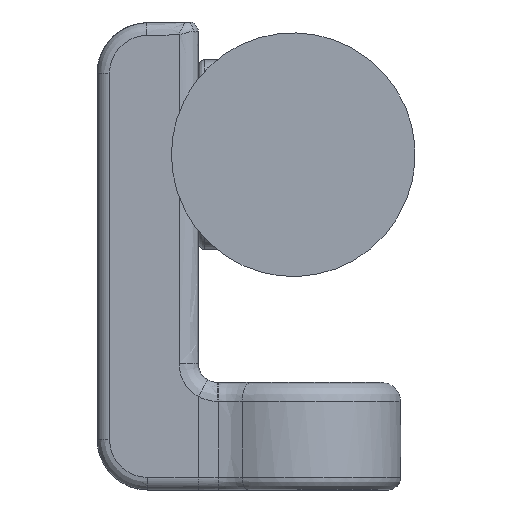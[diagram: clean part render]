
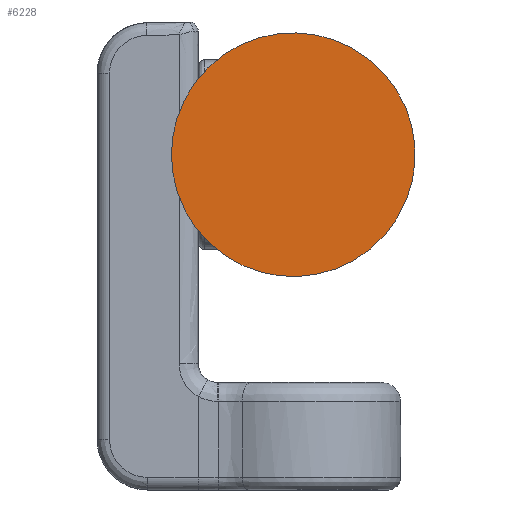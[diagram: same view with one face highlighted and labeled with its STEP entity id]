
A CAD part, left-side view. The second image highlights one B-rep face of the part: STEP entity #6228.
In plain terms, the highlighted free-form (B-spline) face has degree [1, 1] with [2, 2] control points.
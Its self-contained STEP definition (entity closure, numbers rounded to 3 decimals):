
#6196=CARTESIAN_POINT('',(-134.229,19.256,36.));
#6197=VERTEX_POINT('',#6196);
#6203=CARTESIAN_POINT('',(-134.229,19.256,36.));
#6204=CARTESIAN_POINT('',(-134.229,19.256,16.744));
#6205=CARTESIAN_POINT('',(-134.229,0.,16.744));
#6206=CARTESIAN_POINT('',(-134.229,-19.256,16.744));
#6207=CARTESIAN_POINT('',(-134.229,-19.256,36.));
#6208=CARTESIAN_POINT('',(-134.229,-19.256,55.256));
#6209=CARTESIAN_POINT('',(-134.229,0.,55.256));
#6210=CARTESIAN_POINT('',(-134.229,19.256,55.256));
#6211=CARTESIAN_POINT('',(-134.229,19.256,36.));
#6212=(BOUNDED_CURVE()B_SPLINE_CURVE(2,(#6203,#6204,#6205,#6206,#6207,#6208,#6209,#6210,#6211),.CIRCULAR_ARC.,.T.,.U.)B_SPLINE_CURVE_WITH_KNOTS((3,2,2,2,3),(0.,0.25,0.5,0.75,1.),.UNSPECIFIED.)CURVE()GEOMETRIC_REPRESENTATION_ITEM()RATIONAL_B_SPLINE_CURVE((1.,0.707,1.,0.707,1.,0.707,1.,0.707,1.))REPRESENTATION_ITEM(''));
#6213=EDGE_CURVE('',#6197,#6197,#6212,.T.);
#6220=CARTESIAN_POINT('',(-134.229,-57.767,-21.767));
#6221=CARTESIAN_POINT('',(-134.229,-57.767,93.767));
#6222=CARTESIAN_POINT('',(-134.229,57.767,-21.767));
#6223=CARTESIAN_POINT('',(-134.229,57.767,93.767));
#6224=B_SPLINE_SURFACE_WITH_KNOTS('',1,1,((#6220,#6221),(#6222,#6223)),.PLANE_SURF.,.F.,.F.,.U.,(2,2),(2,2),(-1.,2.),(-1.,2.),.UNSPECIFIED.);
#6225=ORIENTED_EDGE('',*,*,#6213,.F.);
#6226=EDGE_LOOP('',(#6225));
#6227=FACE_OUTER_BOUND('',#6226,.F.);
#6228=ADVANCED_FACE('',(#6227),#6224,.F.);
